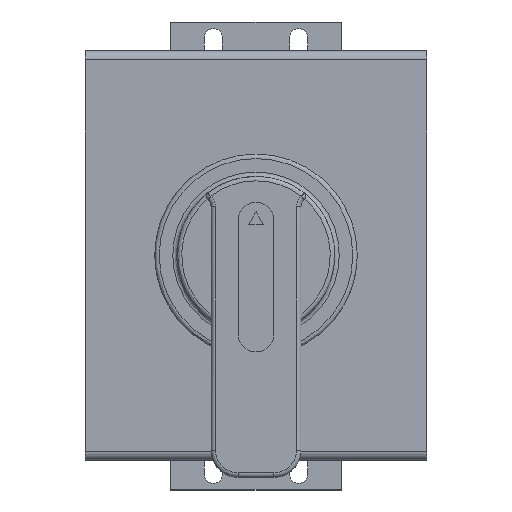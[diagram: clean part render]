
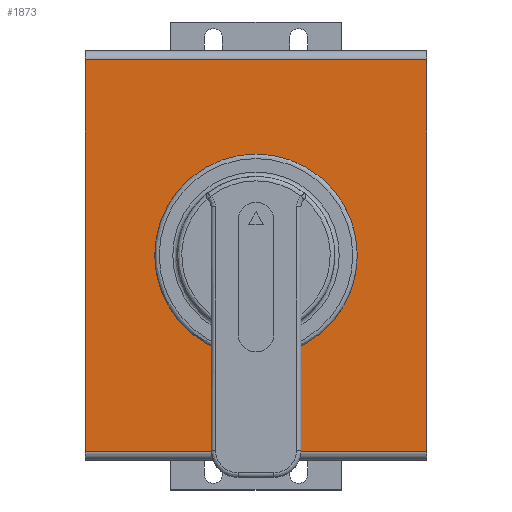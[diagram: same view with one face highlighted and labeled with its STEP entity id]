
A CAD part, top view. The second image highlights one B-rep face of the part: STEP entity #1873.
In plain terms, the highlighted planar face has unit normal (0, 0, 1).
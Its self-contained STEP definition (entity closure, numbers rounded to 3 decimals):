
#90=PLANE('',#2005);
#153=LINE('',#2694,#310);
#155=LINE('',#2700,#312);
#161=LINE('',#2722,#318);
#162=LINE('',#2723,#319);
#310=VECTOR('',#2182,10.);
#312=VECTOR('',#2188,10.);
#318=VECTOR('',#2206,10.);
#319=VECTOR('',#2207,10.);
#468=FACE_BOUND('',#610,.T.);
#492=FACE_OUTER_BOUND('',#609,.T.);
#609=EDGE_LOOP('',(#1304,#1305,#1306,#1307));
#610=EDGE_LOOP('',(#1308));
#743=CIRCLE('',#1994,5.);
#826=VERTEX_POINT('',#2685);
#829=VERTEX_POINT('',#2691);
#830=VERTEX_POINT('',#2693);
#832=VERTEX_POINT('',#2699);
#842=VERTEX_POINT('',#2721);
#1008=EDGE_CURVE('',#826,#826,#743,.T.);
#1011=EDGE_CURVE('',#829,#830,#153,.T.);
#1014=EDGE_CURVE('',#830,#832,#155,.T.);
#1025=EDGE_CURVE('',#829,#842,#161,.T.);
#1026=EDGE_CURVE('',#832,#842,#162,.T.);
#1304=ORIENTED_EDGE('',*,*,#1011,.F.);
#1305=ORIENTED_EDGE('',*,*,#1025,.T.);
#1306=ORIENTED_EDGE('',*,*,#1026,.F.);
#1307=ORIENTED_EDGE('',*,*,#1014,.F.);
#1308=ORIENTED_EDGE('',*,*,#1008,.T.);
#1873=ADVANCED_FACE('',(#492,#468),#90,.T.);
#1994=AXIS2_PLACEMENT_3D('',#2686,#2174,#2175);
#2005=AXIS2_PLACEMENT_3D('',#2720,#2204,#2205);
#2174=DIRECTION('center_axis',(0.,0.,-1.));
#2175=DIRECTION('ref_axis',(1.,0.,0.));
#2182=DIRECTION('',(1.,0.,0.));
#2188=DIRECTION('',(0.,-1.,0.));
#2204=DIRECTION('center_axis',(0.,0.,1.));
#2205=DIRECTION('ref_axis',(1.,0.,0.));
#2206=DIRECTION('',(0.,-1.,0.));
#2207=DIRECTION('',(-1.,0.,0.));
#2685=CARTESIAN_POINT('',(-5.,0.,45.));
#2686=CARTESIAN_POINT('Origin',(0.,0.,45.));
#2691=CARTESIAN_POINT('',(-38.,43.5,45.));
#2693=CARTESIAN_POINT('',(38.,43.5,45.));
#2694=CARTESIAN_POINT('',(19.,43.5,45.));
#2699=CARTESIAN_POINT('',(38.,-43.5,45.));
#2700=CARTESIAN_POINT('',(38.,-45.5,45.));
#2720=CARTESIAN_POINT('Origin',(0.,44.5,45.));
#2721=CARTESIAN_POINT('',(-38.,-43.5,45.));
#2722=CARTESIAN_POINT('',(-38.,43.5,45.));
#2723=CARTESIAN_POINT('',(19.,-43.5,45.));
